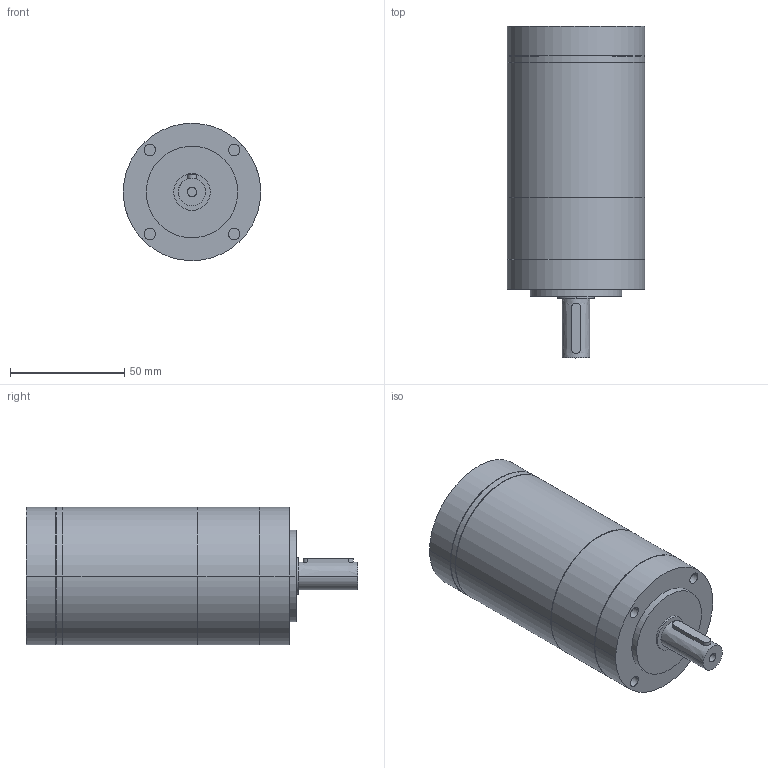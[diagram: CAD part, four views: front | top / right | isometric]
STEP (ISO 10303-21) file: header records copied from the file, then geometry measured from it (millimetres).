
FILE_DESCRIPTION(/* description */ (''),/* implementation_level */ '2;1');
FILE_NAME(/* name */ 'G4860R~1',/* time_stamp */ '2018-10-16T13:34:51+08:00',/* author */ (''),/* organization */ (''),/* preprocessor_version */ 'ST-DEVELOPER v15',/* originating_system */ '',/* authorisation */ '');
FILE_SCHEMA (('AUTOMOTIVE_DESIGN'));
Length unit declared in the file: millimetre
Products named in the file (1): Document
Bounding box: 60 x 145 x 59.93 mm (x, y, z)
Surface area: 29738.3 mm2 (no closed solid volume)
Topology: 0 solids, 1 shells, 53 faces, 114 edges, 68 vertices
Faces by surface type: bspline 44, plane 9
Entity records: 2207 total; most frequent: CARTESIAN_POINT 1527, ORIENTED_EDGE 220, EDGE_CURVE 114, VERTEX_POINT 68, EDGE_LOOP 62, ADVANCED_FACE 53, FACE_OUTER_BOUND 53, B_SPLINE_CURVE_WITH_KNOTS 33
